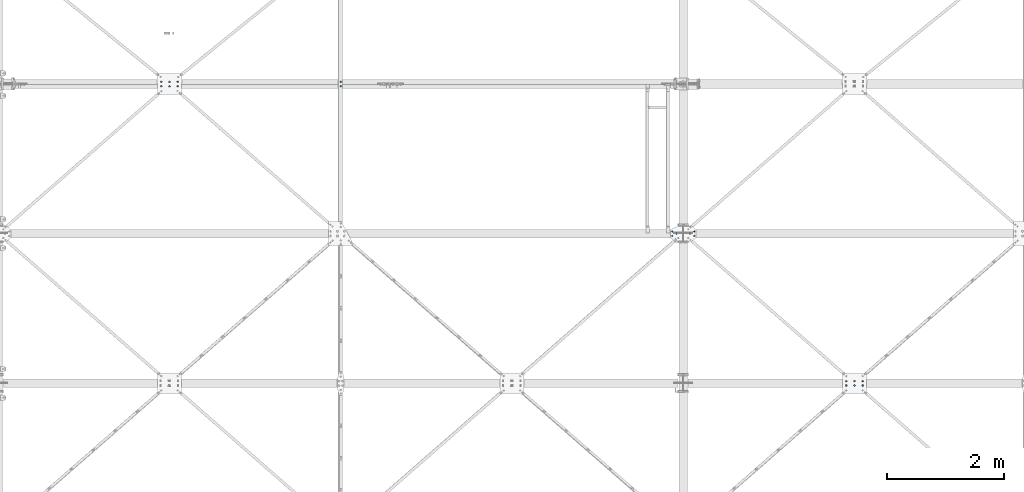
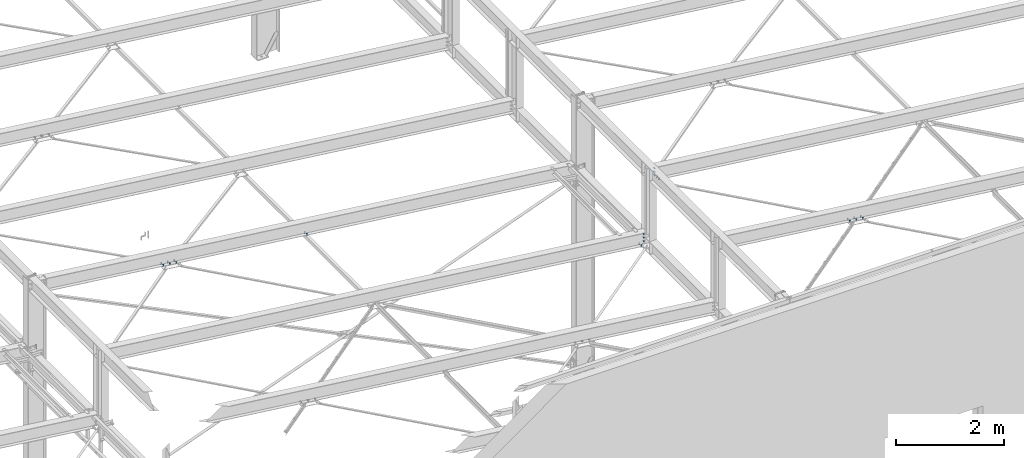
# One storey, part 127 of 3134: 7 mechanical fasteners, 5 elements without a shape of their own.
"""IFC2X3 building model written with IfcOpenShell, lengths in millimetres."""

from ifc_helpers import new_model, si_unit, frame, origin_with_axes, place, context, subcontext, project, spatial, faceted_brep, source, transform, mapped, material, type_object, element, aggregate, save


model = new_model("IFC2X3")

# Units and contexts
model_context = context("Model", 3, precision=1e-05, world=origin_with_axes())
body_context = subcontext(model_context, "Body", "Model", "MODEL_VIEW")
ifc_project = project(units=[si_unit("LENGTHUNIT", "METRE", prefix="MILLI"), si_unit("AREAUNIT", "SQUARE_METRE"), si_unit("VOLUMEUNIT", "CUBIC_METRE"), si_unit("MASSUNIT", "GRAM", prefix="KILO"), si_unit("TIMEUNIT", "SECOND"), si_unit("PLANEANGLEUNIT", "RADIAN"), si_unit("SOLIDANGLEUNIT", "STERADIAN"), si_unit("THERMODYNAMICTEMPERATUREUNIT", "DEGREE_CELSIUS"), si_unit("LUMINOUSINTENSITYUNIT", "LUMEN")], contexts=[model_context])

# Site, building, storey
site_placement = place(None, origin_with_axes())
site = spatial("IfcSite", under=ifc_project, at=site_placement, CompositionType="ELEMENT")
building_placement = place(site_placement, origin_with_axes())
building = spatial("IfcBuilding", under=site, at=building_placement, Name="Undefined", CompositionType="ELEMENT")
storey_placement = place(building_placement, origin_with_axes())
storey = spatial("IfcBuildingStorey", under=building, at=storey_placement, Name="Undefined", CompositionType="ELEMENT", Elevation=0.0)

# Assembly, mechanical fastener
assembly_1_placement = place(storey_placement, origin_with_axes())
assembly_1 = element("IfcElementAssembly", 1, at=assembly_1_placement, inside=storey, Name="300", AssemblyPlace="NOTDEFINED", PredefinedType="RIGID_FRAME")
ifc_material = material(Name="8.8")
mechanical_fastener_type = type_object("IfcMechanicalFastenerType", Name="Bolt assembly")
shared_shape_1 = source(origin_with_axes(), body_context, "Body", "Brep", [
    faceted_brep([(13.856406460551, -19.199990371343, 0.0), (6.92820323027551, -19.199990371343, 12.0), (-6.92820323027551, -19.199990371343, 12.0), (-13.856406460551, -19.199990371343, 1.69692038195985e-15), (-6.92820323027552, -19.199990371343, -12.0), (6.9282032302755, -19.199990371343, -12.0), (6.9282032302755, -9.19999037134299, -12.0), (-6.92820323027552, -9.19999037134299, -12.0), (-13.856406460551, -9.19999037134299, 1.69692038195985e-15), (-6.92820323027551, -9.19999037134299, 12.0), (6.92820323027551, -9.19999037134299, 12.0), (13.856406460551, -9.19999037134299, 0.0), (8.0, -9.19999037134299, 0.0), (6.92820323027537, -9.19999037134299, 4.00000000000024), (3.99999999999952, -9.19999037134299, 6.92820323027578), (-8.29068785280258e-13, -9.19999037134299, 8.0), (-4.00000000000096, -9.19999037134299, 6.92820323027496), (-6.9282032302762, -9.19999037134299, 3.99999999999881), (-8.0, -9.19999037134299, -1.65813757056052e-12), (-6.92820323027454, -9.19999037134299, -4.00000000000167), (-3.99999999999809, -9.19999037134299, -6.92820323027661), (2.47832457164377e-12, -9.19999037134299, -8.0), (4.00000000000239, -9.19999037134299, -6.92820323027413), (6.92820323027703, -9.19999037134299, -3.99999999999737), (6.92820323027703, 25.800009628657, -3.99999999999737), (4.00000000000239, 25.800009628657, -6.92820323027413), (2.47832457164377e-12, 25.800009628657, -8.0), (-3.99999999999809, 25.800009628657, -6.92820323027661), (-6.92820323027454, 25.800009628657, -4.00000000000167), (-8.0, 25.800009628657, -1.65813757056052e-12), (-6.9282032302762, 25.800009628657, 3.99999999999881), (-4.00000000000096, 25.800009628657, 6.92820323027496), (-8.29068785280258e-13, 25.800009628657, 8.0), (3.99999999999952, 25.800009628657, 6.92820323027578), (6.92820323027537, 25.800009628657, 4.00000000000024), (8.0, 25.800009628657, 0.0), (13.856406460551, 8.00000637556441, 0.0), (6.92820323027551, 8.00000637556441, 12.0), (-6.92820323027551, 8.00000637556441, 12.0), (-13.856406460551, 8.00000637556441, 1.69692038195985e-15), (-6.92820323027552, 8.00000637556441, -12.0), (6.9282032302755, 8.00000637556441, -12.0), (6.9282032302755, 21.0000063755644, -12.0), (-6.92820323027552, 21.0000063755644, -12.0), (-13.856406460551, 21.0000063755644, 1.69692038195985e-15), (-6.92820323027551, 21.0000063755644, 12.0), (6.92820323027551, 21.0000063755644, 12.0), (13.856406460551, 21.0000063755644, 0.0)], [[[0, 1, 2, 3, 4, 5]], [[6, 7, 8, 9, 10, 11]], [[0, 11, 10, 1]], [[1, 10, 9, 2]], [[2, 9, 8, 3]], [[3, 8, 7, 4]], [[4, 7, 6, 5]], [[5, 6, 11, 0]], [[12, 13, 14, 15, 16, 17, 18, 19, 20, 21, 22, 23]], [[24, 25, 26, 27, 28, 29, 30, 31, 32, 33, 34, 35]], [[12, 35, 34, 13]], [[13, 34, 33, 14]], [[14, 33, 32, 15]], [[15, 32, 31, 16]], [[16, 31, 30, 17]], [[17, 30, 29, 18]], [[18, 29, 28, 19]], [[19, 28, 27, 20]], [[20, 27, 26, 21]], [[21, 26, 25, 22]], [[22, 25, 24, 23]], [[23, 24, 35, 12]], [[36, 37, 38, 39, 40, 41]], [[42, 43, 44, 45, 46, 47]], [[36, 47, 46, 37]], [[37, 46, 45, 38]], [[38, 45, 44, 39]], [[39, 44, 43, 40]], [[40, 43, 42, 41]], [[41, 42, 47, 36]]]),
    faceted_brep([(9.0, -0.1, 0.0), (7.79422863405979, -0.1, 4.50000000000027), (4.49999999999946, -0.1, 7.79422863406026), (-9.3270238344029e-13, -0.1, 9.0), (-4.50000000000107, -0.1, 7.79422863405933), (-7.79422863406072, -0.1, 4.49999999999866), (-9.0, -0.1, -1.86540476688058e-12), (-7.79422863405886, -0.1, -4.50000000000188), (-4.49999999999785, -0.1, -7.79422863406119), (2.78811514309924e-12, -0.1, -9.0), (4.50000000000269, -0.1, -7.7942286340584), (7.79422863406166, -0.1, -4.49999999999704), (7.79422863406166, 8.00000000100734, -4.49999999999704), (4.50000000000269, 8.00000000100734, -7.7942286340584), (2.78811514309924e-12, 8.00000000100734, -9.0), (-4.49999999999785, 8.00000000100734, -7.79422863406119), (-7.79422863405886, 8.00000000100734, -4.50000000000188), (-9.0, 8.00000000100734, -1.86540476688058e-12), (-7.79422863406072, 8.00000000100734, 4.49999999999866), (-4.50000000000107, 8.00000000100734, 7.79422863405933), (-9.3270238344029e-13, 8.00000000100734, 9.0), (4.49999999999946, 8.00000000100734, 7.79422863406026), (7.79422863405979, 8.00000000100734, 4.50000000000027), (9.0, 8.00000000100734, 0.0), (9.0, -9.09999037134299, 0.0), (7.79422863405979, -9.09999037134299, 4.50000000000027), (4.49999999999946, -9.09999037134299, 7.79422863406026), (-9.3270238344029e-13, -9.09999037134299, 9.0), (-4.50000000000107, -9.09999037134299, 7.79422863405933), (-7.79422863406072, -9.09999037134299, 4.49999999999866), (-9.0, -9.09999037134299, -1.86540476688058e-12), (-7.79422863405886, -9.09999037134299, -4.50000000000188), (-4.49999999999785, -9.09999037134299, -7.79422863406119), (2.78811514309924e-12, -9.09999037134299, -9.0), (4.50000000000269, -9.09999037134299, -7.7942286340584), (7.79422863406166, -9.09999037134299, -4.49999999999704), (7.79422863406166, 0.100000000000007, -4.49999999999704), (4.50000000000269, 0.100000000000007, -7.7942286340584), (2.78811514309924e-12, 0.100000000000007, -9.0), (-4.49999999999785, 0.100000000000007, -7.79422863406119), (-7.79422863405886, 0.100000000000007, -4.50000000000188), (-9.0, 0.100000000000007, -1.86540476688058e-12), (-7.79422863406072, 0.100000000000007, 4.49999999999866), (-4.50000000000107, 0.100000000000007, 7.79422863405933), (-9.3270238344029e-13, 0.100000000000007, 9.0), (4.49999999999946, 0.100000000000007, 7.79422863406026), (7.79422863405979, 0.100000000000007, 4.50000000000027), (9.0, 0.100000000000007, 0.0)], [[[0, 1, 2, 3, 4, 5, 6, 7, 8, 9, 10, 11]], [[12, 13, 14, 15, 16, 17, 18, 19, 20, 21, 22, 23]], [[0, 23, 22, 1]], [[1, 22, 21, 2]], [[2, 21, 20, 3]], [[3, 20, 19, 4]], [[4, 19, 18, 5]], [[5, 18, 17, 6]], [[6, 17, 16, 7]], [[7, 16, 15, 8]], [[8, 15, 14, 9]], [[9, 14, 13, 10]], [[10, 13, 12, 11]], [[11, 12, 23, 0]], [[24, 25, 26, 27, 28, 29, 30, 31, 32, 33, 34, 35]], [[36, 37, 38, 39, 40, 41, 42, 43, 44, 45, 46, 47]], [[24, 47, 46, 25]], [[25, 46, 45, 26]], [[26, 45, 44, 27]], [[27, 44, 43, 28]], [[28, 43, 42, 29]], [[29, 42, 41, 30]], [[30, 41, 40, 31]], [[31, 40, 39, 32]], [[32, 39, 38, 33]], [[33, 38, 37, 34]], [[34, 37, 36, 35]], [[35, 36, 47, 24]]]),
])
mechanical_fastener_1_placement = place(assembly_1_placement, frame((55686.7539628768, 5137.99951302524, 4116.78546253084), z_axis=(0.992623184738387, -1.63108538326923e-05, -0.12124031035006), x_axis=(-1.62000016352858e-05, -0.999999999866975, 1.90000018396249e-06)))
mechanical_fastener_1 = element("IfcMechanicalFastener", 2, at=mechanical_fastener_1_placement, type_object=mechanical_fastener_type, material=ifc_material, Name="Bolt assembly", NominalDiameter=16.0, NominalLength=35.0, context=body_context, shape_type="MappedRepresentation", body=[
    mapped(shared_shape_1, transform((0.0, 0.0, 0.0))),
    mapped(shared_shape_1, transform((76.0, 0.0, 0.0))),
])

assembly_2_placement = place(storey_placement, origin_with_axes())
assembly_2 = element("IfcElementAssembly", 3, at=assembly_2_placement, inside=storey, Name="300", AssemblyPlace="NOTDEFINED", PredefinedType="RIGID_FRAME")
mechanical_fastener_2_placement = place(assembly_2_placement, frame((56064.2248162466, 5137.99951302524, 5496.68063423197), z_axis=(0.992623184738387, 1.63108538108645e-05, -0.12124031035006), x_axis=(1.62000016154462e-05, -0.999999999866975, -1.90000018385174e-06)))
mechanical_fastener_2 = element("IfcMechanicalFastener", 4, at=mechanical_fastener_2_placement, type_object=mechanical_fastener_type, material=ifc_material, Name="Bolt assembly", NominalDiameter=16.0, NominalLength=35.0, context=body_context, shape_type="MappedRepresentation", body=[
    mapped(shared_shape_1, transform((0.0, 0.0, 0.0))),
    mapped(shared_shape_1, transform((76.0, 0.0, 0.0))),
])

# Mechanical fastener
shared_shape_2 = source(origin_with_axes(), body_context, "Body", "Brep", [
    faceted_brep([(13.856406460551, -13.0499999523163, 0.0), (6.92820323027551, -13.0499999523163, 12.0), (-6.92820323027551, -13.0499999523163, 12.0), (-13.856406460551, -13.0499999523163, 1.69692038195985e-15), (-6.92820323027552, -13.0499999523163, -12.0), (6.9282032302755, -13.0499999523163, -12.0), (6.9282032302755, -3.04999995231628, -12.0), (-6.92820323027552, -3.04999995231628, -12.0), (-13.856406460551, -3.04999995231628, 1.69692038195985e-15), (-6.92820323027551, -3.04999995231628, 12.0), (6.92820323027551, -3.04999995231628, 12.0), (13.856406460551, -3.04999995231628, 0.0), (8.0, -3.04999995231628, 0.0), (6.92820323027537, -3.04999995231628, 4.00000000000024), (3.99999999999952, -3.04999995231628, 6.92820323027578), (-8.29068785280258e-13, -3.04999995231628, 8.0), (-4.00000000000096, -3.04999995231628, 6.92820323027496), (-6.9282032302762, -3.04999995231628, 3.99999999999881), (-8.0, -3.04999995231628, -1.65813757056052e-12), (-6.92820323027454, -3.04999995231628, -4.00000000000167), (-3.99999999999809, -3.04999995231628, -6.92820323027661), (2.47832457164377e-12, -3.04999995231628, -8.0), (4.00000000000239, -3.04999995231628, -6.92820323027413), (6.92820323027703, -3.04999995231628, -3.99999999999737), (6.92820323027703, 31.9500000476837, -3.99999999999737), (4.00000000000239, 31.9500000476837, -6.92820323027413), (2.47832457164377e-12, 31.9500000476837, -8.0), (-3.99999999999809, 31.9500000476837, -6.92820323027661), (-6.92820323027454, 31.9500000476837, -4.00000000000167), (-8.0, 31.9500000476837, -1.65813757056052e-12), (-6.9282032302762, 31.9500000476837, 3.99999999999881), (-4.00000000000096, 31.9500000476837, 6.92820323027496), (-8.29068785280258e-13, 31.9500000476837, 8.0), (3.99999999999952, 31.9500000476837, 6.92820323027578), (6.92820323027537, 31.9500000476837, 4.00000000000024), (8.0, 31.9500000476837, 0.0), (13.856406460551, 13.0500000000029, 0.0), (6.92820323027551, 13.0500000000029, 12.0), (-6.92820323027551, 13.0500000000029, 12.0), (-13.856406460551, 13.0500000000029, 1.69692038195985e-15), (-6.92820323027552, 13.0500000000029, -12.0), (6.9282032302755, 13.0500000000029, -12.0), (6.9282032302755, 26.0500000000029, -12.0), (-6.92820323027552, 26.0500000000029, -12.0), (-13.856406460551, 26.0500000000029, 1.69692038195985e-15), (-6.92820323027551, 26.0500000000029, 12.0), (6.92820323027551, 26.0500000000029, 12.0), (13.856406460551, 26.0500000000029, 0.0)], [[[0, 1, 2, 3, 4, 5]], [[6, 7, 8, 9, 10, 11]], [[0, 11, 10, 1]], [[1, 10, 9, 2]], [[2, 9, 8, 3]], [[3, 8, 7, 4]], [[4, 7, 6, 5]], [[5, 6, 11, 0]], [[12, 13, 14, 15, 16, 17, 18, 19, 20, 21, 22, 23]], [[24, 25, 26, 27, 28, 29, 30, 31, 32, 33, 34, 35]], [[12, 35, 34, 13]], [[13, 34, 33, 14]], [[14, 33, 32, 15]], [[15, 32, 31, 16]], [[16, 31, 30, 17]], [[17, 30, 29, 18]], [[18, 29, 28, 19]], [[19, 28, 27, 20]], [[20, 27, 26, 21]], [[21, 26, 25, 22]], [[22, 25, 24, 23]], [[23, 24, 35, 12]], [[36, 37, 38, 39, 40, 41]], [[42, 43, 44, 45, 46, 47]], [[36, 47, 46, 37]], [[37, 46, 45, 38]], [[38, 45, 44, 39]], [[39, 44, 43, 40]], [[40, 43, 42, 41]], [[41, 42, 47, 36]]]),
    faceted_brep([(9.0, 2.95000000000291, 0.0), (7.79422863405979, 2.95000000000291, 4.50000000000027), (4.49999999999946, 2.95000000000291, 7.79422863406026), (-9.3270238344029e-13, 2.95000000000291, 9.0), (-4.50000000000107, 2.95000000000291, 7.79422863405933), (-7.79422863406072, 2.95000000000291, 4.49999999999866), (-9.0, 2.95000000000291, -1.86540476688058e-12), (-7.79422863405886, 2.95000000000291, -4.50000000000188), (-4.49999999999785, 2.95000000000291, -7.79422863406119), (2.78811514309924e-12, 2.95000000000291, -9.0), (4.50000000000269, 2.95000000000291, -7.7942286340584), (7.79422863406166, 2.95000000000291, -4.49999999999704), (7.79422863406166, 13.0500000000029, -4.49999999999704), (4.50000000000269, 13.0500000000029, -7.7942286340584), (2.78811514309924e-12, 13.0500000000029, -9.0), (-4.49999999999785, 13.0500000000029, -7.79422863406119), (-7.79422863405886, 13.0500000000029, -4.50000000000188), (-9.0, 13.0500000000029, -1.86540476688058e-12), (-7.79422863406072, 13.0500000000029, 4.49999999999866), (-4.50000000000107, 13.0500000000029, 7.79422863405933), (-9.3270238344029e-13, 13.0500000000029, 9.0), (4.49999999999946, 13.0500000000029, 7.79422863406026), (7.79422863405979, 13.0500000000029, 4.50000000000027), (9.0, 13.0500000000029, 0.0), (9.0, -2.94999995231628, 0.0), (7.79422863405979, -2.94999995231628, 4.50000000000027), (4.49999999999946, -2.94999995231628, 7.79422863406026), (-9.3270238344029e-13, -2.94999995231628, 9.0), (-4.50000000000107, -2.94999995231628, 7.79422863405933), (-7.79422863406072, -2.94999995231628, 4.49999999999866), (-9.0, -2.94999995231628, -1.86540476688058e-12), (-7.79422863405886, -2.94999995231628, -4.50000000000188), (-4.49999999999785, -2.94999995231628, -7.79422863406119), (2.78811514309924e-12, -2.94999995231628, -9.0), (4.50000000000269, -2.94999995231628, -7.7942286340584), (7.79422863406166, -2.94999995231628, -4.49999999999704), (7.79422863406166, 3.14999995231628, -4.49999999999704), (4.50000000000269, 3.14999995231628, -7.7942286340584), (2.78811514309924e-12, 3.14999995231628, -9.0), (-4.49999999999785, 3.14999995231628, -7.79422863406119), (-7.79422863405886, 3.14999995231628, -4.50000000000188), (-9.0, 3.14999995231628, -1.86540476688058e-12), (-7.79422863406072, 3.14999995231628, 4.49999999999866), (-4.50000000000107, 3.14999995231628, 7.79422863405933), (-9.3270238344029e-13, 3.14999995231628, 9.0), (4.49999999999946, 3.14999995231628, 7.79422863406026), (7.79422863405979, 3.14999995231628, 4.50000000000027), (9.0, 3.14999995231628, 0.0)], [[[0, 1, 2, 3, 4, 5, 6, 7, 8, 9, 10, 11]], [[12, 13, 14, 15, 16, 17, 18, 19, 20, 21, 22, 23]], [[0, 23, 22, 1]], [[1, 22, 21, 2]], [[2, 21, 20, 3]], [[3, 20, 19, 4]], [[4, 19, 18, 5]], [[5, 18, 17, 6]], [[6, 17, 16, 7]], [[7, 16, 15, 8]], [[8, 15, 14, 9]], [[9, 14, 13, 10]], [[10, 13, 12, 11]], [[11, 12, 23, 0]], [[24, 25, 26, 27, 28, 29, 30, 31, 32, 33, 34, 35]], [[36, 37, 38, 39, 40, 41, 42, 43, 44, 45, 46, 47]], [[24, 47, 46, 25]], [[25, 46, 45, 26]], [[26, 45, 44, 27]], [[27, 44, 43, 28]], [[28, 43, 42, 29]], [[29, 42, 41, 30]], [[30, 41, 40, 31]], [[31, 40, 39, 32]], [[32, 39, 38, 33]], [[33, 38, 37, 34]], [[34, 37, 36, 35]], [[35, 36, 47, 24]]]),
])
mechanical_fastener_3_placement = place(assembly_1_placement, frame((55760.0, 5100.0, 4337.44269270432), z_axis=(1.0, 0.0, 0.0), x_axis=(0.0, 0.0, -1.0)))
mechanical_fastener_3 = element("IfcMechanicalFastener", 5, at=mechanical_fastener_3_placement, type_object=mechanical_fastener_type, material=ifc_material, Name="Bolt assembly", NominalDiameter=16.0, NominalLength=35.0, context=body_context, shape_type="MappedRepresentation", body=[
    mapped(shared_shape_2, transform((0.0, 0.0, 0.0))),
    mapped(shared_shape_2, transform((80.0, 0.0, 0.0))),
    mapped(shared_shape_2, transform((160.0, 0.0, 0.0))),
])

aggregate(assembly_1, [mechanical_fastener_3, mechanical_fastener_1])

mechanical_fastener_4_placement = place(assembly_2_placement, frame((55990.0, 5100.0, 5735.35014950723), z_axis=(1.0, 0.0, 0.0), x_axis=(0.0, 0.0, -1.0)))
mechanical_fastener_4 = element("IfcMechanicalFastener", 6, at=mechanical_fastener_4_placement, type_object=mechanical_fastener_type, material=ifc_material, Name="Bolt assembly", NominalDiameter=16.0, NominalLength=35.0, context=body_context, shape_type="MappedRepresentation", body=[
    mapped(shared_shape_2, transform((0.0, 0.0, 0.0))),
    mapped(shared_shape_2, transform((80.0, 0.0, 0.0))),
    mapped(shared_shape_2, transform((160.0, 0.0, 0.0))),
])

aggregate(assembly_2, [mechanical_fastener_2, mechanical_fastener_4])

# Assembly, mechanical fastener
assembly_3_placement = place(storey_placement, origin_with_axes())
assembly_3 = element("IfcElementAssembly", 7, at=assembly_3_placement, inside=storey, AssemblyPlace="NOTDEFINED", PredefinedType="RIGID_FRAME")
shared_shape_3 = source(origin_with_axes(), body_context, "Body", "Brep", [
    faceted_brep([(13.856406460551, -19.199990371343, 0.0), (6.92820323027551, -19.199990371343, 12.0), (-6.92820323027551, -19.199990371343, 12.0), (-13.856406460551, -19.199990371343, 1.69692038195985e-15), (-6.92820323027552, -19.199990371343, -12.0), (6.9282032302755, -19.199990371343, -12.0), (6.9282032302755, -9.19999037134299, -12.0), (-6.92820323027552, -9.19999037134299, -12.0), (-13.856406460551, -9.19999037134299, 1.69692038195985e-15), (-6.92820323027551, -9.19999037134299, 12.0), (6.92820323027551, -9.19999037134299, 12.0), (13.856406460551, -9.19999037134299, 0.0), (8.0, -9.19999037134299, 0.0), (6.92820323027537, -9.19999037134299, 4.00000000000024), (3.99999999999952, -9.19999037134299, 6.92820323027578), (-8.29068785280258e-13, -9.19999037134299, 8.0), (-4.00000000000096, -9.19999037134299, 6.92820323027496), (-6.9282032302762, -9.19999037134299, 3.99999999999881), (-8.0, -9.19999037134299, -1.65813757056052e-12), (-6.92820323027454, -9.19999037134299, -4.00000000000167), (-3.99999999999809, -9.19999037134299, -6.92820323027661), (2.47832457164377e-12, -9.19999037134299, -8.0), (4.00000000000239, -9.19999037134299, -6.92820323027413), (6.92820323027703, -9.19999037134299, -3.99999999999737), (6.92820323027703, 35.8000002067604, -3.99999999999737), (4.00000000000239, 35.8000002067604, -6.92820323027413), (2.47832457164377e-12, 35.8000002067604, -8.0), (-3.99999999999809, 35.8000002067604, -6.92820323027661), (-6.92820323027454, 35.8000002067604, -4.00000000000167), (-8.0, 35.8000002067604, -1.65813757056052e-12), (-6.9282032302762, 35.8000002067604, 3.99999999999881), (-4.00000000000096, 35.8000002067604, 6.92820323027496), (-8.29068785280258e-13, 35.8000002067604, 8.0), (3.99999999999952, 35.8000002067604, 6.92820323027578), (6.92820323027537, 35.8000002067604, 4.00000000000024), (8.0, 35.8000002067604, 0.0), (13.856406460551, 14.9999995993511, 0.0), (6.92820323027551, 14.9999995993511, 12.0), (-6.92820323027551, 14.9999995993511, 12.0), (-13.856406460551, 14.9999995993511, 1.69692038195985e-15), (-6.92820323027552, 14.9999995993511, -12.0), (6.9282032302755, 14.9999995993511, -12.0), (6.9282032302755, 27.9999995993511, -12.0), (-6.92820323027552, 27.9999995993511, -12.0), (-13.856406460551, 27.9999995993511, 1.69692038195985e-15), (-6.92820323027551, 27.9999995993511, 12.0), (6.92820323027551, 27.9999995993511, 12.0), (13.856406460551, 27.9999995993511, 0.0)], [[[0, 1, 2, 3, 4, 5]], [[6, 7, 8, 9, 10, 11]], [[0, 11, 10, 1]], [[1, 10, 9, 2]], [[2, 9, 8, 3]], [[3, 8, 7, 4]], [[4, 7, 6, 5]], [[5, 6, 11, 0]], [[12, 13, 14, 15, 16, 17, 18, 19, 20, 21, 22, 23]], [[24, 25, 26, 27, 28, 29, 30, 31, 32, 33, 34, 35]], [[12, 35, 34, 13]], [[13, 34, 33, 14]], [[14, 33, 32, 15]], [[15, 32, 31, 16]], [[16, 31, 30, 17]], [[17, 30, 29, 18]], [[18, 29, 28, 19]], [[19, 28, 27, 20]], [[20, 27, 26, 21]], [[21, 26, 25, 22]], [[22, 25, 24, 23]], [[23, 24, 35, 12]], [[36, 37, 38, 39, 40, 41]], [[42, 43, 44, 45, 46, 47]], [[36, 47, 46, 37]], [[37, 46, 45, 38]], [[38, 45, 44, 39]], [[39, 44, 43, 40]], [[40, 43, 42, 41]], [[41, 42, 47, 36]]]),
    faceted_brep([(9.0, -9.09999037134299, 0.0), (7.79422863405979, -9.09999037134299, 4.50000000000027), (4.49999999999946, -9.09999037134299, 7.79422863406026), (-9.3270238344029e-13, -9.09999037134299, 9.0), (-4.50000000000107, -9.09999037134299, 7.79422863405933), (-7.79422863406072, -9.09999037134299, 4.49999999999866), (-9.0, -9.09999037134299, -1.86540476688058e-12), (-7.79422863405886, -9.09999037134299, -4.50000000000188), (-4.49999999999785, -9.09999037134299, -7.79422863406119), (2.78811514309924e-12, -9.09999037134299, -9.0), (4.50000000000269, -9.09999037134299, -7.7942286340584), (7.79422863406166, -9.09999037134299, -4.49999999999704), (7.79422863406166, 0.100000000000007, -4.49999999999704), (4.50000000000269, 0.100000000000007, -7.7942286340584), (2.78811514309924e-12, 0.100000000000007, -9.0), (-4.49999999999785, 0.100000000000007, -7.79422863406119), (-7.79422863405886, 0.100000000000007, -4.50000000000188), (-9.0, 0.100000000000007, -1.86540476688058e-12), (-7.79422863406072, 0.100000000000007, 4.49999999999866), (-4.50000000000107, 0.100000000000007, 7.79422863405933), (-9.3270238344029e-13, 0.100000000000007, 9.0), (4.49999999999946, 0.100000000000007, 7.79422863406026), (7.79422863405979, 0.100000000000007, 4.50000000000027), (9.0, 0.100000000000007, 0.0), (9.0, 7.9, 0.0), (7.79422863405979, 7.9, 4.50000000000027), (4.49999999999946, 7.9, 7.79422863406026), (-9.3270238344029e-13, 7.9, 9.0), (-4.50000000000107, 7.9, 7.79422863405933), (-7.79422863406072, 7.9, 4.49999999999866), (-9.0, 7.9, -1.86540476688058e-12), (-7.79422863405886, 7.9, -4.50000000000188), (-4.49999999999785, 7.9, -7.79422863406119), (2.78811514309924e-12, 7.9, -9.0), (4.50000000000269, 7.9, -7.7942286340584), (7.79422863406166, 7.9, -4.49999999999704), (7.79422863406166, 14.9999995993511, -4.49999999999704), (4.50000000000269, 14.9999995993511, -7.7942286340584), (2.78811514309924e-12, 14.9999995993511, -9.0), (-4.49999999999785, 14.9999995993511, -7.79422863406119), (-7.79422863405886, 14.9999995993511, -4.50000000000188), (-9.0, 14.9999995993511, -1.86540476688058e-12), (-7.79422863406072, 14.9999995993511, 4.49999999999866), (-4.50000000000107, 14.9999995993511, 7.79422863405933), (-9.3270238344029e-13, 14.9999995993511, 9.0), (4.49999999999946, 14.9999995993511, 7.79422863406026), (7.79422863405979, 14.9999995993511, 4.50000000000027), (9.0, 14.9999995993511, 0.0)], [[[0, 1, 2, 3, 4, 5, 6, 7, 8, 9, 10, 11]], [[12, 13, 14, 15, 16, 17, 18, 19, 20, 21, 22, 23]], [[0, 23, 22, 1]], [[1, 22, 21, 2]], [[2, 21, 20, 3]], [[3, 20, 19, 4]], [[4, 19, 18, 5]], [[5, 18, 17, 6]], [[6, 17, 16, 7]], [[7, 16, 15, 8]], [[8, 15, 14, 9]], [[9, 14, 13, 10]], [[10, 13, 12, 11]], [[11, 12, 23, 0]], [[24, 25, 26, 27, 28, 29, 30, 31, 32, 33, 34, 35]], [[36, 37, 38, 39, 40, 41, 42, 43, 44, 45, 46, 47]], [[24, 47, 46, 25]], [[25, 46, 45, 26]], [[26, 45, 44, 27]], [[27, 44, 43, 28]], [[28, 43, 42, 29]], [[29, 42, 41, 30]], [[30, 41, 40, 31]], [[31, 40, 39, 32]], [[32, 39, 38, 33]], [[33, 38, 37, 34]], [[34, 37, 36, 35]], [[35, 36, 47, 24]]]),
])
mechanical_fastener_5_placement = place(assembly_3_placement, frame((50037.9849612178, 7612.0, 4806.73358921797), z_axis=(-0.992623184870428, 0.0, 0.121240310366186), x_axis=(0.0, 1.0, 0.0)))
mechanical_fastener_5 = element("IfcMechanicalFastener", 8, at=mechanical_fastener_5_placement, type_object=mechanical_fastener_type, material=ifc_material, Name="Bolt assembly", NominalDiameter=16.0, NominalLength=45.0, context=body_context, shape_type="MappedRepresentation", body=[
    mapped(shared_shape_3, transform((0.0, 0.0, 0.0))),
    mapped(shared_shape_3, transform((76.0, 0.0, 0.0))),
])
aggregate(assembly_3, [mechanical_fastener_5])

assembly_4_placement = place(storey_placement, origin_with_axes())
assembly_4 = element("IfcElementAssembly", 9, at=assembly_4_placement, inside=storey, Name="300", AssemblyPlace="NOTDEFINED", PredefinedType="RIGID_FRAME")
shared_shape_4 = source(origin_with_axes(), body_context, "Body", "Brep", [
    faceted_brep([(10.9696551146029, -17.1999998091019, 0.0), (5.48482755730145, -17.1999998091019, 9.5), (-5.48482755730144, -17.1999998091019, 9.5), (-10.9696551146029, -17.1999998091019, 1.34339530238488e-15), (-5.48482755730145, -17.1999998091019, -9.5), (5.48482755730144, -17.1999998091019, -9.50000000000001), (5.48482755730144, -9.19999978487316, -9.50000000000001), (-5.48482755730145, -9.19999978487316, -9.5), (-10.9696551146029, -9.19999978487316, 1.34339530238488e-15), (-5.48482755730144, -9.19999978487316, 9.5), (5.48482755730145, -9.19999978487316, 9.5), (10.9696551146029, -9.19999978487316, 0.0), (6.0, -9.19999978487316, 0.0), (5.19615242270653, -9.19999978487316, 3.00000000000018), (2.99999999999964, -9.19999978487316, 5.19615242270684), (-6.21801588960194e-13, -9.19999978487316, 6.0), (-3.00000000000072, -9.19999978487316, 5.19615242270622), (-5.19615242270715, -9.19999978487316, 2.9999999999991), (-6.0, -9.19999978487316, -1.24360317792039e-12), (-5.19615242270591, -9.19999978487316, -3.00000000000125), (-2.99999999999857, -9.19999978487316, -5.19615242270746), (1.85874342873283e-12, -9.19999978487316, -6.0), (3.00000000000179, -9.19999978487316, -5.1961524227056), (5.19615242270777, -9.19999978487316, -2.99999999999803), (5.19615242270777, 25.8000002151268, -2.99999999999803), (3.00000000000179, 25.8000002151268, -5.1961524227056), (1.85874342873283e-12, 25.8000002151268, -6.0), (-2.99999999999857, 25.8000002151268, -5.19615242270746), (-5.19615242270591, 25.8000002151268, -3.00000000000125), (-6.0, 25.8000002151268, -1.24360317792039e-12), (-5.19615242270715, 25.8000002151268, 2.9999999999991), (-3.00000000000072, 25.8000002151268, 5.19615242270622), (-6.21801588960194e-13, 25.8000002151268, 6.0), (2.99999999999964, 25.8000002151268, 5.19615242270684), (5.19615242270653, 25.8000002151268, 3.00000000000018), (6.0, 25.8000002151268, 0.0), (10.9696551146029, 8.0, 0.0), (5.48482755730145, 8.0, 9.5), (-5.48482755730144, 8.0, 9.5), (-10.9696551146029, 8.0, 1.34339530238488e-15), (-5.48482755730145, 8.0, -9.5), (5.48482755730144, 8.0, -9.50000000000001), (5.48482755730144, 18.0, -9.50000000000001), (-5.48482755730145, 18.0, -9.5), (-10.9696551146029, 18.0, 1.34339530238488e-15), (-5.48482755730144, 18.0, 9.5), (5.48482755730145, 18.0, 9.5), (10.9696551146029, 18.0, 0.0)], [[[0, 1, 2, 3, 4, 5]], [[6, 7, 8, 9, 10, 11]], [[0, 11, 10, 1]], [[1, 10, 9, 2]], [[2, 9, 8, 3]], [[3, 8, 7, 4]], [[4, 7, 6, 5]], [[5, 6, 11, 0]], [[12, 13, 14, 15, 16, 17, 18, 19, 20, 21, 22, 23]], [[24, 25, 26, 27, 28, 29, 30, 31, 32, 33, 34, 35]], [[12, 35, 34, 13]], [[13, 34, 33, 14]], [[14, 33, 32, 15]], [[15, 32, 31, 16]], [[16, 31, 30, 17]], [[17, 30, 29, 18]], [[18, 29, 28, 19]], [[19, 28, 27, 20]], [[20, 27, 26, 21]], [[21, 26, 25, 22]], [[22, 25, 24, 23]], [[23, 24, 35, 12]], [[36, 37, 38, 39, 40, 41]], [[42, 43, 44, 45, 46, 47]], [[36, 47, 46, 37]], [[37, 46, 45, 38]], [[38, 45, 44, 39]], [[39, 44, 43, 40]], [[40, 43, 42, 41]], [[41, 42, 47, 36]]]),
    faceted_brep([(7.0, -0.1, 0.0), (6.06217782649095, -0.1, 3.50000000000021), (3.49999999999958, -0.1, 6.06217782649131), (-7.25435187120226e-13, -0.1, 7.0), (-3.50000000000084, -0.1, 6.06217782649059), (-6.06217782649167, -0.1, 3.49999999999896), (-7.0, -0.1, -1.45087037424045e-12), (-6.06217782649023, -0.1, -3.50000000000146), (-3.49999999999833, -0.1, -6.06217782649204), (2.1685340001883e-12, -0.1, -7.0), (3.50000000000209, -0.1, -6.06217782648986), (6.0621778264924, -0.1, -3.4999999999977), (6.0621778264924, 8.0000000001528, -3.4999999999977), (3.50000000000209, 8.0000000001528, -6.06217782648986), (2.1685340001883e-12, 8.0000000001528, -7.0), (-3.49999999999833, 8.0000000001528, -6.06217782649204), (-6.06217782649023, 8.0000000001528, -3.50000000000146), (-7.0, 8.0000000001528, -1.45087037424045e-12), (-6.06217782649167, 8.0000000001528, 3.49999999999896), (-3.50000000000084, 8.0000000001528, 6.06217782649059), (-7.25435187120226e-13, 8.0000000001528, 7.0), (3.49999999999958, 8.0000000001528, 6.06217782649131), (6.06217782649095, 8.0000000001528, 3.50000000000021), (7.0, 8.0000000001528, 0.0), (7.0, -9.09999980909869, 0.0), (6.06217782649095, -9.09999980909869, 3.50000000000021), (3.49999999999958, -9.09999980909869, 6.06217782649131), (-7.25435187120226e-13, -9.09999980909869, 7.0), (-3.50000000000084, -9.09999980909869, 6.06217782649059), (-6.06217782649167, -9.09999980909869, 3.49999999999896), (-7.0, -9.09999980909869, -1.45087037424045e-12), (-6.06217782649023, -9.09999980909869, -3.50000000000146), (-3.49999999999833, -9.09999980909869, -6.06217782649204), (2.1685340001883e-12, -9.09999980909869, -7.0), (3.50000000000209, -9.09999980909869, -6.06217782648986), (6.0621778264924, -9.09999980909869, -3.4999999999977), (6.0621778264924, 0.0999999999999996, -3.4999999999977), (3.50000000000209, 0.0999999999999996, -6.06217782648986), (2.1685340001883e-12, 0.0999999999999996, -7.0), (-3.49999999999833, 0.0999999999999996, -6.06217782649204), (-6.06217782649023, 0.0999999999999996, -3.50000000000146), (-7.0, 0.0999999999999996, -1.45087037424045e-12), (-6.06217782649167, 0.0999999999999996, 3.49999999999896), (-3.50000000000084, 0.0999999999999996, 6.06217782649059), (-7.25435187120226e-13, 0.0999999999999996, 7.0), (3.49999999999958, 0.0999999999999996, 6.06217782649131), (6.06217782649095, 0.0999999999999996, 3.50000000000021), (7.0, 0.0999999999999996, 0.0)], [[[0, 1, 2, 3, 4, 5, 6, 7, 8, 9, 10, 11]], [[12, 13, 14, 15, 16, 17, 18, 19, 20, 21, 22, 23]], [[0, 23, 22, 1]], [[1, 22, 21, 2]], [[2, 21, 20, 3]], [[3, 20, 19, 4]], [[4, 19, 18, 5]], [[5, 18, 17, 6]], [[6, 17, 16, 7]], [[7, 16, 15, 8]], [[8, 15, 14, 9]], [[9, 14, 13, 10]], [[10, 13, 12, 11]], [[11, 12, 23, 0]], [[24, 25, 26, 27, 28, 29, 30, 31, 32, 33, 34, 35]], [[36, 37, 38, 39, 40, 41, 42, 43, 44, 45, 46, 47]], [[24, 47, 46, 25]], [[25, 46, 45, 26]], [[26, 45, 44, 27]], [[27, 44, 43, 28]], [[28, 43, 42, 29]], [[29, 42, 41, 30]], [[30, 41, 40, 31]], [[31, 40, 39, 32]], [[32, 39, 38, 33]], [[33, 38, 37, 34]], [[34, 37, 36, 35]], [[35, 36, 47, 24]]]),
])
mechanical_fastener_6_placement = place(assembly_4_placement, frame((47258.202206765, 7650.0, 5146.25993621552), z_axis=(0.0, -1.0, 0.0), x_axis=(-0.992623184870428, 0.0, 0.121240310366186)))
mechanical_fastener_6 = element("IfcMechanicalFastener", 10, at=mechanical_fastener_6_placement, type_object=mechanical_fastener_type, material=ifc_material, Name="Bolt assembly", NominalDiameter=12.0, NominalLength=35.0, context=body_context, shape_type="MappedRepresentation", body=[
    mapped(shared_shape_4, transform((0.0, 0.0, -38.0))),
    mapped(shared_shape_4, transform((140.000000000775, 5.85714587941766e-10, -38.0))),
    mapped(shared_shape_4, transform((279.999999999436, -4.74756234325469e-10, -38.0))),
    mapped(shared_shape_4, transform((0.0, 0.0, 38.0))),
    mapped(shared_shape_4, transform((140.000000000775, 5.85714587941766e-10, 38.0))),
    mapped(shared_shape_4, transform((279.999999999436, -4.74756234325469e-10, 38.0))),
])
aggregate(assembly_4, [mechanical_fastener_6])

assembly_5_placement = place(storey_placement, origin_with_axes())
assembly_5 = element("IfcElementAssembly", 11, at=assembly_5_placement, inside=storey, Name="300", AssemblyPlace="NOTDEFINED", PredefinedType="RIGID_FRAME")
mechanical_fastener_7_placement = place(assembly_5_placement, frame((58933.202206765, 2550.0, 5146.25993621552), z_axis=(0.0, -1.0, 0.0), x_axis=(-0.992623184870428, 0.0, 0.121240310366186)))
mechanical_fastener_7 = element("IfcMechanicalFastener", 12, at=mechanical_fastener_7_placement, type_object=mechanical_fastener_type, material=ifc_material, Name="Bolt assembly", NominalDiameter=12.0, NominalLength=35.0, context=body_context, shape_type="MappedRepresentation", body=[
    mapped(shared_shape_4, transform((0.0, 0.0, -38.0))),
    mapped(shared_shape_4, transform((140.000000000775, 5.85714587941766e-10, -38.0))),
    mapped(shared_shape_4, transform((279.999999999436, -4.74756234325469e-10, -38.0))),
    mapped(shared_shape_4, transform((0.0, 0.0, 38.0))),
    mapped(shared_shape_4, transform((140.000000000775, 5.85714587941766e-10, 38.0))),
    mapped(shared_shape_4, transform((279.999999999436, -4.74756234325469e-10, 38.0))),
])
aggregate(assembly_5, [mechanical_fastener_7])

save(model, "model.ifc")
